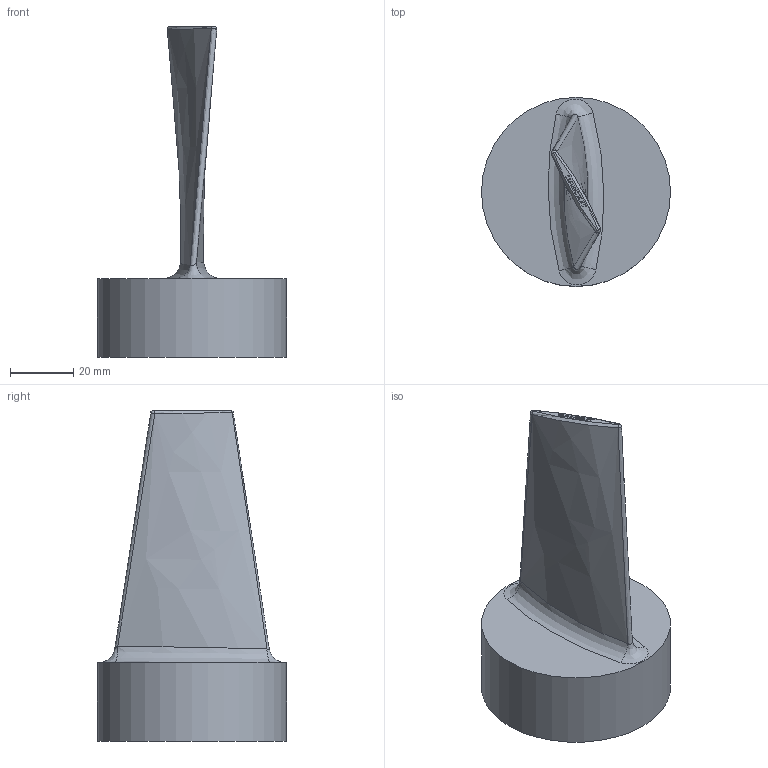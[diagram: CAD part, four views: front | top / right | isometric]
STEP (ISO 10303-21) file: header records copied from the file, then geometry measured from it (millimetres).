
FILE_DESCRIPTION((''),'2;1');
FILE_NAME('C:\Users\User\Desktop\Mastercam-harjoitukset\Mastercam_Multiaxis_3.stp','2020-03-26T11:53:42',(''),(''),'STEP Write','Mastercam 2020 ... CNC Software, Inc.','');
FILE_SCHEMA(('AUTOMOTIVE_DESIGN'));
Length unit declared in the file: millimetre
Products named in the file (1): None
Bounding box: 60 x 60 x 105 mm (x, y, z)
Volume: 85515.4 mm3; surface area: 16477.4 mm2
Topology: 1 solids, 1 shells, 110 faces, 301 edges, 199 vertices
Faces by surface type: plane 77, cylinder 21, bspline 12
Full cylindrical faces by diameter (mm): 60 x1
Entity records: 5410 total; most frequent: CARTESIAN_POINT 2557, ORIENTED_EDGE 598, DIRECTION 505, EDGE_CURVE 299, VECTOR 221, LINE 221, VERTEX_POINT 198, AXIS2_PLACEMENT_3D 142
